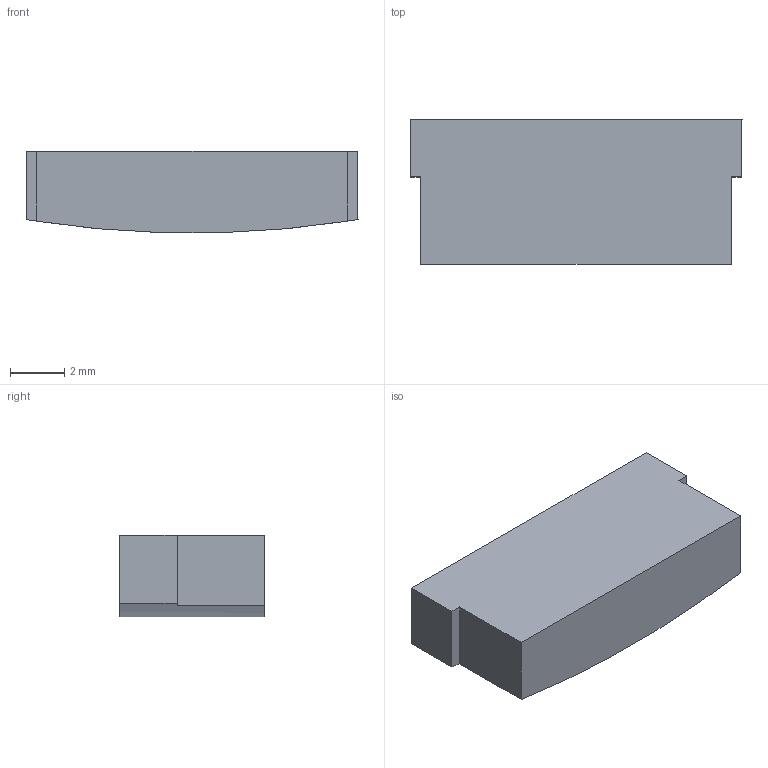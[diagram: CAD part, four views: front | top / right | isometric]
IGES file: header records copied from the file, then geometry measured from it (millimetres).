
Start section:  PTC IGES file: molex_conn_12pin_52559_prt.igs
Global section: file name: molex_conn_12pin_52559_prt.igs; native system: Pro/ENGINEER by Parametric Technology Corporation; preprocessor: 2000030; author: ECaille; organization: Unknown; date: 000803.092117; units: millimetre
Bounding box: 12.2 x 5.3 x 2.98 mm (x, y, z)
Surface area: 220.5 mm2 (no closed solid volume)
Topology: 0 solids, 0 shells, 10 faces, 83 edges, 118 vertices
Faces by surface type: bspline 9, revolution 1
